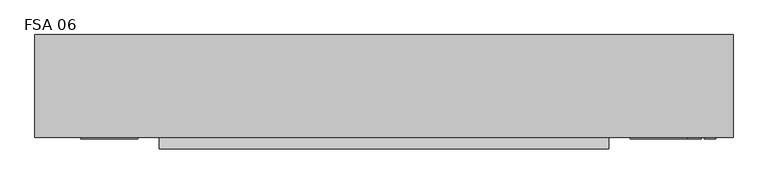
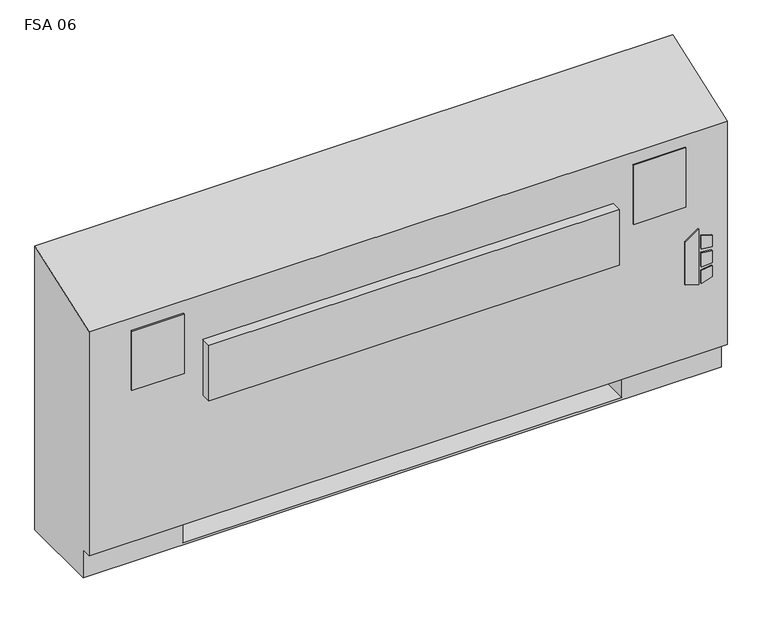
"""IFC4 building model written with IfcOpenShell, lengths in millimetres: proxy geometry, Vertical_Fan_Coil_Unit_-_FSA_-_IEC_-_2-Pipe_FS-FR_RH_2022 : FSA 06."""

from ifc_helpers import new_model, si_unit, point, frame, frame_2d, origin, place, context, project, spatial, polyline, circle_curve, trimmed, segment, composite_curve, outline, extrude, source, transform, mapped, element, save
from ifc_brep_helpers import plane_surface, revolved_surface, advanced_brep


def fsa_06_d963093d(model_context):
    return source(origin(), model_context, "Body", "SolidModel", [
        extrude(outline(polyline([(263.9480703, 823.9868862), (254.0, 856.1602728), (396.1709244, 856.1602728), (373.1489183, 823.9868862), (263.9480703, 823.9868862)])), frame((0.0, 12.7, 0.0), z_axis=(0.0, 1.0, 0.0), x_axis=(0.0, 0.0, 1.0)), (0.0, 0.0, 1.0), 3.175),
        extrude(outline(polyline([(342.9473557, 862.9186058), (339.7449632, 889.0), (368.9738042, 889.0), (377.0382193, 862.9186058), (342.9473557, 862.9186058)])), frame((0.0, 12.7, 0.0), z_axis=(0.0, 1.0, 0.0), x_axis=(0.0, 0.0, 1.0)), (0.0, 0.0, 1.0), 3.175),
        extrude(outline(polyline([(291.0838288, 889.0), (287.4183279, 862.9186058), (254.0, 862.9186058), (262.6342372, 889.0), (291.0838288, 889.0)])), frame((0.0, 12.7, 0.0), z_axis=(0.0, 1.0, 0.0), x_axis=(0.0, 0.0, 1.0)), (0.0, 0.0, 1.0), 3.175),
        extrude(outline(polyline([(330.3989903, 889.0), (332.6808166, 862.9186058), (296.7432681, 862.9186058), (299.4845331, 889.0), (330.3989903, 889.0)])), frame((0.0, 12.7, 0.0), z_axis=(0.0, 1.0, 0.0), x_axis=(0.0, 0.0, 1.0)), (0.0, 0.0, 1.0), 3.175),
        extrude(outline(polyline([(-501.65, 81.534), (-501.65, 223.266), (-381.0, 223.266), (-381.0, 81.534), (-501.65, 81.534)])), frame((0.0, 0.0, 327.025), z_axis=(0.0, 0.0, 1.0), x_axis=(1.0, 0.0, 0.0)), (0.0, 0.0, 1.0), 260.35),
        extrude(outline(polyline([(-393.7, 12.7), (-520.7, 12.7), (-520.7, 15.875), (-393.7, 15.875), (-393.7, 12.7)])), frame((0.0, 0.0, 463.55), z_axis=(0.0, 0.0, 1.0), x_axis=(1.0, 0.0, 0.0)), (0.0, 0.0, 1.0), 152.4),
        extrude(outline(polyline([(825.5, 12.7), (698.5, 12.7), (698.5, 15.875), (825.5, 15.875), (825.5, 12.7)])), frame((0.0, 0.0, 463.55), z_axis=(0.0, 0.0, 1.0), x_axis=(1.0, 0.0, 0.0)), (0.0, 0.0, 1.0), 152.4),
        extrude(outline(composite_curve([segment(trimmed(circle_curve(frame_2d((749.3, 130.175)), 9.525), [point((739.775, 130.175))], [point((758.825, 130.175))], False, "CARTESIAN"), True, "CONTINUOUS"), segment(trimmed(circle_curve(frame_2d((749.3, 130.175)), 9.525), [point((758.825, 130.175))], [point((739.775, 130.175))], False, "CARTESIAN"), True, "CONTINUOUS")], self_intersect=False)), frame((0.0, 0.0, 101.6), z_axis=(0.0, 0.0, 1.0), x_axis=(1.0, 0.0, 0.0)), (0.0, 0.0, 1.0), 25.4),
        extrude(outline(polyline([(850.9, 196.85), (850.9, 63.5), (685.8, 63.5), (685.8, 196.85), (850.9, 196.85)])), frame((0.0, 0.0, 127.0), z_axis=(0.0, 0.0, 1.0), x_axis=(1.0, 0.0, 0.0)), (0.0, 0.0, 1.0), 50.8),
        extrude(outline(polyline([(650.875, -9.525), (-346.075, -9.525), (-346.075, 15.875), (650.875, 15.875), (650.875, -9.525)])), frame((0.0, 0.0, 389.3009245), z_axis=(0.0, 0.0, 1.0), x_axis=(1.0, 0.0, 0.0)), (0.0, 0.0, 1.0), 142.875),
        extrude(outline(composite_curve([segment(trimmed(circle_curve(frame_2d((109.347, 456.819)), 7.9375), [point((109.347, 464.7565))], [point((109.347, 448.8815))], False, "CARTESIAN"), True, "CONTINUOUS"), segment(trimmed(circle_curve(frame_2d((109.347, 456.819)), 7.9375), [point((109.347, 448.8815))], [point((109.347, 464.7565))], False, "CARTESIAN"), True, "CONTINUOUS")], self_intersect=False)), frame((685.8, 0.0, 0.0), z_axis=(1.0, 0.0, 0.0), x_axis=(0.0, 1.0, 0.0)), (0.0, 0.0, 1.0), 50.8),
        extrude(outline(composite_curve([segment(trimmed(circle_curve(frame_2d((157.4546, 429.4632)), 7.9375), [point((157.4546, 437.4007))], [point((157.4546, 421.5257))], False, "CARTESIAN"), True, "CONTINUOUS"), segment(trimmed(circle_curve(frame_2d((157.4546, 429.4632)), 7.9375), [point((157.4546, 421.5257))], [point((157.4546, 437.4007))], False, "CARTESIAN"), True, "CONTINUOUS")], self_intersect=False)), frame((685.8, 0.0, 0.0), z_axis=(1.0, 0.0, 0.0), x_axis=(0.0, 1.0, 0.0)), (0.0, 0.0, 1.0), 50.8),
        advanced_brep(
        [(-622.3, 244.475, 0.0), (927.1, 244.475, 0.0), (927.1, 41.275, 0.0), (-622.3, 41.275, 0.0), (-622.3, 244.475, 730.25), (927.1, 244.475, 730.25), (685.8, 244.475, 73.025), (914.4, 244.475, 73.025), (914.4, 244.475, 654.05), (685.8, 244.475, 654.05), (685.8, 244.475, 414.8650565), (714.375, 244.475, 414.8650565), (714.375, 244.475, 385.2349435), (685.8, 244.475, 385.2349435), (685.8, 244.475, 287.3375), (714.375, 244.475, 287.3375), (714.375, 244.475, 258.7625), (685.8, 244.475, 258.7625), (685.8, 244.475, 141.2875), (714.375, 244.475, 141.2875), (714.375, 244.475, 112.7125), (685.8, 244.475, 112.7125), (-381.0, 244.475, 654.05), (-609.6, 244.475, 654.05), (-609.6, 244.475, 73.025), (-381.0, 244.475, 73.025), (-381.0, 244.475, 112.7125), (-409.575, 244.475, 112.7125), (-409.575, 244.475, 141.2875), (-381.0, 244.475, 141.2875), (-381.0, 244.475, 258.7625), (-409.575, 244.475, 258.7625), (-409.575, 244.475, 287.3375), (-381.0, 244.475, 287.3375), (-381.0, 244.475, 385.2349435), (-409.575, 244.475, 385.2349435), (-409.575, 244.475, 414.8650565), (-381.0, 244.475, 414.8650565), (704.0626, 244.475, 127.0), (692.9374, 244.475, 127.0), (704.0626, 244.475, 400.05), (692.9374, 244.475, 400.05), (704.0626, 244.475, 273.05), (692.9374, 244.475, 273.05), (-388.1374, 244.475, 127.0), (-399.2626, 244.475, 127.0), (-388.1374, 244.475, 273.05), (-399.2626, 244.475, 273.05), (-388.1374, 244.475, 400.05), (-399.2626, 244.475, 400.05), (-622.3, 41.275, 73.025), (-622.3, 15.875, 73.025), (-622.3, 15.875, 647.7), (927.1, 15.875, 73.025), (927.1, 15.875, 647.7), (927.1, 41.275, 73.025), (-381.0, 41.275, 73.025), (-381.0, 225.425, 73.025), (685.8, 225.425, 73.025), (685.8, 41.275, 73.025), (685.8, 41.275, 6.35), (-381.0, 41.275, 6.35), (685.8, 41.275, 654.05), (914.4, 41.275, 654.05), (914.4, 41.275, 73.025), (685.8, 41.275, 73.025), (-381.0, 41.275, 654.05), (-381.0, 41.275, 73.025), (-609.6, 41.275, 73.025), (-609.6, 41.275, 654.05), (685.8, 225.425, 73.025), (685.8, 238.125, 112.7125), (685.8, 238.125, 141.2875), (685.8, 238.125, 258.7625), (685.8, 238.125, 287.3375), (685.8, 238.125, 385.2349435), (685.8, 238.125, 414.8650565), (-381.0, 225.425, 73.025), (-381.0, 238.125, 414.8650565), (-381.0, 238.125, 385.2349435), (-381.0, 238.125, 287.3375), (-381.0, 238.125, 258.7625), (-381.0, 238.125, 141.2875), (-381.0, 238.125, 112.7125), (-381.0, 225.425, 6.35), (685.8, 225.425, 6.35), (714.375, 238.125, 112.7125), (714.375, 238.125, 141.2875), (692.9374, 238.125, 127.0), (704.0626, 238.125, 127.0), (714.375, 238.125, 258.7625), (714.375, 238.125, 287.3375), (692.9374, 238.125, 273.05), (704.0626, 238.125, 273.05), (714.375, 238.125, 385.2349435), (714.375, 238.125, 414.8650565), (692.9374, 238.125, 400.05), (704.0626, 238.125, 400.05), (-409.575, 238.125, 141.2875), (-409.575, 238.125, 112.7125), (-399.2626, 238.125, 127.0), (-388.1374, 238.125, 127.0), (-409.575, 238.125, 287.3375), (-409.575, 238.125, 258.7625), (-399.2626, 238.125, 273.05), (-388.1374, 238.125, 273.05), (-409.575, 238.125, 414.8650565), (-409.575, 238.125, 385.2349435), (-399.2626, 238.125, 400.05), (-388.1374, 238.125, 400.05)],
        [
            (0, 1),
            (1, 2),
            (2, 3),
            (3, 0),
            (0, 4),
            (4, 5),
            (5, 1),
            (6, 7),
            (7, 8),
            (8, 9),
            (9, 10),
            (10, 11),
            (11, 12),
            (12, 13),
            (13, 14),
            (14, 15),
            (15, 16),
            (16, 17),
            (17, 18),
            (18, 19),
            (19, 20),
            (20, 21),
            (21, 6),
            (22, 23),
            (23, 24),
            (24, 25),
            (25, 26),
            (26, 27),
            (27, 28),
            (28, 29),
            (29, 30),
            (30, 31),
            (31, 32),
            (32, 33),
            (33, 34),
            (34, 35),
            (35, 36),
            (36, 37),
            (37, 22),
            (38, 39, circle_curve(frame((698.5, 244.475, 127.0), z_axis=(0.0, -1.0, 0.0), x_axis=(-1.0, 0.0, 0.0)), 5.5626)),
            (39, 38, circle_curve(frame((698.5, 244.475, 127.0), z_axis=(0.0, -1.0, 0.0), x_axis=(-1.0, 0.0, 0.0)), 5.5626)),
            (40, 41, circle_curve(frame((698.5, 244.475, 400.05), z_axis=(0.0, -1.0, 0.0), x_axis=(-1.0, 0.0, 0.0)), 5.5626)),
            (41, 40, circle_curve(frame((698.5, 244.475, 400.05), z_axis=(0.0, -1.0, 0.0), x_axis=(-1.0, 0.0, 0.0)), 5.5626)),
            (42, 43, circle_curve(frame((698.5, 244.475, 273.05), z_axis=(0.0, -1.0, 0.0), x_axis=(-1.0, 0.0, 0.0)), 5.5626)),
            (43, 42, circle_curve(frame((698.5, 244.475, 273.05), z_axis=(0.0, -1.0, 0.0), x_axis=(-1.0, 0.0, 0.0)), 5.5626)),
            (44, 45, circle_curve(frame((-393.7, 244.475, 127.0), z_axis=(0.0, -1.0, 0.0), x_axis=(-1.0, 0.0, 0.0)), 5.5626)),
            (45, 44, circle_curve(frame((-393.7, 244.475, 127.0), z_axis=(0.0, -1.0, 0.0), x_axis=(-1.0, 0.0, 0.0)), 5.5626)),
            (46, 47, circle_curve(frame((-393.7, 244.475, 273.05), z_axis=(0.0, -1.0, 0.0), x_axis=(-1.0, 0.0, 0.0)), 5.5626)),
            (47, 46, circle_curve(frame((-393.7, 244.475, 273.05), z_axis=(0.0, -1.0, 0.0), x_axis=(-1.0, 0.0, 0.0)), 5.5626)),
            (48, 49, circle_curve(frame((-393.7, 244.475, 400.05), z_axis=(0.0, -1.0, 0.0), x_axis=(-1.0, 0.0, 0.0)), 5.5626)),
            (49, 48, circle_curve(frame((-393.7, 244.475, 400.05), z_axis=(0.0, -1.0, 0.0), x_axis=(-1.0, 0.0, 0.0)), 5.5626)),
            (3, 50),
            (50, 51),
            (51, 52),
            (52, 4),
            (51, 53),
            (53, 54),
            (54, 52),
            (5, 54),
            (53, 55),
            (55, 2),
            (50, 56),
            (56, 57),
            (57, 58),
            (58, 59),
            (59, 55),
            (59, 60),
            (60, 61),
            (61, 56),
            (62, 63),
            (63, 64),
            (64, 65),
            (65, 62),
            (66, 67),
            (67, 68),
            (68, 69),
            (69, 66),
            (65, 70),
            (70, 6),
            (21, 71),
            (71, 72),
            (72, 18),
            (17, 73),
            (73, 74),
            (74, 14),
            (13, 75),
            (75, 76),
            (76, 10),
            (9, 62),
            (64, 7),
            (63, 8),
            (69, 23),
            (22, 66),
            (68, 24),
            (67, 77),
            (77, 25),
            (37, 78),
            (78, 79),
            (79, 34),
            (33, 80),
            (80, 81),
            (81, 30),
            (29, 82),
            (82, 83),
            (83, 26),
            (57, 84),
            (84, 85),
            (85, 58),
            (85, 60),
            (84, 61),
            (71, 86),
            (86, 87),
            (87, 72),
            (88, 89, circle_curve(frame((698.5, 238.125, 127.0), z_axis=(0.0, 1.0, 0.0), x_axis=(-1.0, 0.0, 0.0)), 5.5626)),
            (89, 88, circle_curve(frame((698.5, 238.125, 127.0), z_axis=(0.0, 1.0, 0.0), x_axis=(-1.0, 0.0, 0.0)), 5.5626)),
            (73, 90),
            (90, 91),
            (91, 74),
            (92, 93, circle_curve(frame((698.5, 238.125, 273.05), z_axis=(0.0, 1.0, 0.0), x_axis=(-1.0, 0.0, 0.0)), 5.5626)),
            (93, 92, circle_curve(frame((698.5, 238.125, 273.05), z_axis=(0.0, 1.0, 0.0), x_axis=(-1.0, 0.0, 0.0)), 5.5626)),
            (75, 94),
            (94, 95),
            (95, 76),
            (96, 97, circle_curve(frame((698.5, 238.125, 400.05), z_axis=(0.0, 1.0, 0.0), x_axis=(-1.0, 0.0, 0.0)), 5.5626)),
            (97, 96, circle_curve(frame((698.5, 238.125, 400.05), z_axis=(0.0, 1.0, 0.0), x_axis=(-1.0, 0.0, 0.0)), 5.5626)),
            (98, 99),
            (99, 83),
            (82, 98),
            (100, 101, circle_curve(frame((-393.7, 238.125, 127.0), z_axis=(0.0, 1.0, 0.0), x_axis=(-1.0, 0.0, 0.0)), 5.5626)),
            (101, 100, circle_curve(frame((-393.7, 238.125, 127.0), z_axis=(0.0, 1.0, 0.0), x_axis=(-1.0, 0.0, 0.0)), 5.5626)),
            (102, 103),
            (103, 81),
            (80, 102),
            (104, 105, circle_curve(frame((-393.7, 238.125, 273.05), z_axis=(0.0, 1.0, 0.0), x_axis=(-1.0, 0.0, 0.0)), 5.5626)),
            (105, 104, circle_curve(frame((-393.7, 238.125, 273.05), z_axis=(0.0, 1.0, 0.0), x_axis=(-1.0, 0.0, 0.0)), 5.5626)),
            (106, 107),
            (107, 79),
            (78, 106),
            (108, 109, circle_curve(frame((-393.7, 238.125, 400.05), z_axis=(0.0, 1.0, 0.0), x_axis=(-1.0, 0.0, 0.0)), 5.5626)),
            (109, 108, circle_curve(frame((-393.7, 238.125, 400.05), z_axis=(0.0, 1.0, 0.0), x_axis=(-1.0, 0.0, 0.0)), 5.5626)),
            (87, 19),
            (86, 20),
            (91, 15),
            (90, 16),
            (95, 11),
            (94, 12),
            (28, 98),
            (99, 27),
            (32, 102),
            (103, 31),
            (36, 106),
            (107, 35),
            (88, 39),
            (38, 89),
            (96, 41),
            (40, 97),
            (92, 43),
            (42, 93),
            (100, 45),
            (44, 101),
            (104, 47),
            (46, 105),
            (108, 49),
            (48, 109),
        ],
        [
            plane_surface(frame((-622.3, 244.475, 0.0), z_axis=(0.0, 0.0, -1.0), x_axis=(1.0, 0.0, 0.0))),
            plane_surface(frame((927.1, 244.475, 730.25), z_axis=(0.0, 1.0, 0.0), x_axis=(0.0, 0.0, -1.0))),
            plane_surface(frame((-622.3, 244.475, 730.25), z_axis=(-1.0, 0.0, 0.0), x_axis=(0.0, 0.0, -1.0))),
            plane_surface(frame((-622.3, 15.875, 730.25), z_axis=(0.0, -1.0, 0.0), x_axis=(0.0, 0.0, -1.0))),
            plane_surface(frame((927.1, 15.875, 730.25), z_axis=(1.0, 0.0, 0.0), x_axis=(0.0, 0.0, -1.0))),
            plane_surface(frame((-622.3, 15.875, 73.025), z_axis=(0.0, 0.0, -1.0), x_axis=(1.0, 0.0, 0.0))),
            plane_surface(frame((-622.3, 41.275, 73.025), z_axis=(0.0, -1.0, 0.0), x_axis=(1.0, 0.0, 0.0))),
            plane_surface(frame((685.8, 41.275, 654.05), z_axis=(0.0, 1.0, 0.0), x_axis=(0.0, 0.0, -1.0))),
            plane_surface(frame((685.8, 41.275, 654.05), z_axis=(1.0, 0.0, 0.0), x_axis=(0.0, 1.0, 0.0))),
            plane_surface(frame((685.8, 41.275, 73.025), z_axis=(0.0, 0.0, 1.0), x_axis=(0.0, 1.0, 0.0))),
            plane_surface(frame((914.4, 41.275, 73.025), z_axis=(-1.0, 0.0, 0.0), x_axis=(0.0, 1.0, 0.0))),
            plane_surface(frame((914.4, 41.275, 654.05), z_axis=(0.0, 0.0, -1.0), x_axis=(0.0, 1.0, 0.0))),
            plane_surface(frame((-381.0, 41.275, 654.05), z_axis=(0.0, 0.0, -1.0), x_axis=(0.0, 1.0, 0.0))),
            plane_surface(frame((-609.6, 41.275, 654.05), z_axis=(1.0, 0.0, 0.0), x_axis=(0.0, 1.0, 0.0))),
            plane_surface(frame((-609.6, 41.275, 73.025), z_axis=(0.0, 0.0, 1.0), x_axis=(0.0, 1.0, 0.0))),
            plane_surface(frame((-381.0, 41.275, 73.025), z_axis=(-1.0, 0.0, 0.0), x_axis=(0.0, 1.0, 0.0))),
            plane_surface(frame((685.8, 225.425, 73.025), z_axis=(0.0, -1.0, 0.0), x_axis=(0.0, 0.0, -1.0))),
            plane_surface(frame((685.8, 225.425, 73.025), z_axis=(-1.0, 0.0, 0.0), x_axis=(0.0, -1.0, 0.0))),
            plane_surface(frame((685.8, 225.425, 6.35), z_axis=(0.0, 0.0, 1.0), x_axis=(0.0, -1.0, 0.0))),
            plane_surface(frame((-381.0, 225.425, 6.35), z_axis=(1.0, 0.0, 0.0), x_axis=(0.0, -1.0, 0.0))),
            plane_surface(frame((714.375, 238.125, 141.2875), z_axis=(0.0, -1.0, 0.0), x_axis=(-1.0, 0.0, 0.0))),
            plane_surface(frame((685.8, 244.475, 141.2875), z_axis=(0.0, 0.0, 1.0), x_axis=(0.0, -1.0, 0.0))),
            plane_surface(frame((714.375, 244.475, 141.2875), z_axis=(1.0, 0.0, 0.0), x_axis=(0.0, -1.0, 0.0))),
            plane_surface(frame((714.375, 244.475, 112.7125), z_axis=(0.0, 0.0, -1.0), x_axis=(0.0, -1.0, 0.0))),
            plane_surface(frame((685.8, 244.475, 287.3375), z_axis=(0.0, 0.0, 1.0), x_axis=(0.0, -1.0, 0.0))),
            plane_surface(frame((714.375, 244.475, 287.3375), z_axis=(1.0, 0.0, 0.0), x_axis=(0.0, -1.0, 0.0))),
            plane_surface(frame((714.375, 244.475, 258.7625), z_axis=(0.0, 0.0, -1.0), x_axis=(0.0, -1.0, 0.0))),
            plane_surface(frame((685.8, 244.475, 414.8650565), z_axis=(0.0, 0.0, 1.0), x_axis=(0.0, -1.0, 0.0))),
            plane_surface(frame((714.375, 244.475, 414.8650565), z_axis=(1.0, 0.0, 0.0), x_axis=(0.0, -1.0, 0.0))),
            plane_surface(frame((714.375, 244.475, 385.2349435), z_axis=(0.0, 0.0, -1.0), x_axis=(0.0, -1.0, 0.0))),
            plane_surface(frame((-409.575, 244.475, 141.2875), z_axis=(0.0, 0.0, 1.0), x_axis=(0.0, -1.0, 0.0))),
            plane_surface(frame((-381.0, 244.475, 112.7125), z_axis=(0.0, 0.0, -1.0), x_axis=(0.0, -1.0, 0.0))),
            plane_surface(frame((-409.575, 244.475, 112.7125), z_axis=(-1.0, 0.0, 0.0), x_axis=(0.0, -1.0, 0.0))),
            plane_surface(frame((-409.575, 244.475, 287.3375), z_axis=(0.0, 0.0, 1.0), x_axis=(0.0, -1.0, 0.0))),
            plane_surface(frame((-381.0, 244.475, 258.7625), z_axis=(0.0, 0.0, -1.0), x_axis=(0.0, -1.0, 0.0))),
            plane_surface(frame((-409.575, 244.475, 258.7625), z_axis=(-1.0, 0.0, 0.0), x_axis=(0.0, -1.0, 0.0))),
            plane_surface(frame((-409.575, 244.475, 414.8650565), z_axis=(0.0, 0.0, 1.0), x_axis=(0.0, -1.0, 0.0))),
            plane_surface(frame((-381.0, 244.475, 385.2349435), z_axis=(0.0, 0.0, -1.0), x_axis=(0.0, -1.0, 0.0))),
            plane_surface(frame((-409.575, 244.475, 385.2349435), z_axis=(-1.0, 0.0, 0.0), x_axis=(0.0, -1.0, 0.0))),
            revolved_surface(polyline([(692.9374, 238.125, 127.0), (692.9374, 244.475, 127.0)]), (698.5, 244.475, 127.0), (0.0, -1.0, 0.0)),
            revolved_surface(polyline([(692.9374, 238.125, 400.05), (692.9374, 244.475, 400.05)]), (698.5, 244.475, 400.05), (0.0, -1.0, 0.0)),
            revolved_surface(polyline([(692.9374, 238.125, 273.05), (692.9374, 244.475, 273.05)]), (698.5, 244.475, 273.05), (0.0, -1.0, 0.0)),
            revolved_surface(polyline([(-399.26259999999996, 238.125, 127.0), (-399.26259999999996, 244.475, 127.0)]), (-393.7, 244.475, 127.0), (0.0, -1.0, 0.0)),
            revolved_surface(polyline([(-399.26259999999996, 238.125, 273.05), (-399.26259999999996, 244.475, 273.05)]), (-393.7, 244.475, 273.05), (0.0, -1.0, 0.0)),
            revolved_surface(polyline([(-399.26259999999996, 238.125, 400.05), (-399.26259999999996, 244.475, 400.05)]), (-393.7, 244.475, 400.05), (0.0, -1.0, 0.0)),
            plane_surface(frame((-622.3, 244.475, 730.25), z_axis=(0.0, -0.33964446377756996, 0.9405538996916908), x_axis=(1.0, 0.0, 0.0))),
        ],
        [
            (0, [[1, 2, 3, 4]]),
            (1, [[-1, 5, 6, 7], [8, 9, 10, 11, 12, 13, 14, 15, 16, 17, 18, 19, 20, 21, 22, 23], [24, 25, 26, 27, 28, 29, 30, 31, 32, 33, 34, 35, 36, 37, 38, 39], [40, 41], [42, 43], [44, 45], [46, 47], [48, 49], [50, 51]]),
            (2, [[-5, -4, 52, 53, 54, 55]]),
            (3, [[56, 57, 58, -54]]),
            (4, [[-7, 59, -57, 60, 61, -2]]),
            (5, [[-53, 62, 63, 64, 65, 66, -60, -56]]),
            (6, [[-3, -61, -66, 67, 68, 69, -62, -52]]),
            (7, [[70, 71, 72, 73]]),
            (7, [[74, 75, 76, 77]]),
            (8, [[-73, 78, 79, -23, 80, 81, 82, -19, 83, 84, 85, -15, 86, 87, 88, -11, 89]]),
            (9, [[-72, 90, -8, -79, -78]]),
            (10, [[-71, 91, -9, -90]]),
            (11, [[-70, -89, -10, -91]]),
            (12, [[-77, 92, -24, 93]]),
            (13, [[-76, 94, -25, -92]]),
            (14, [[-75, 95, 96, -26, -94]]),
            (15, [[-74, -93, -39, 97, 98, 99, -35, 100, 101, 102, -31, 103, 104, 105, -27, -96, -95]]),
            (16, [[-64, 106, 107, 108]]),
            (17, [[-108, 109, -67, -65]]),
            (18, [[-107, 110, -68, -109]]),
            (19, [[-106, -63, -69, -110]]),
            (20, [[111, 112, 113, -81], [114, 115]]),
            (20, [[116, 117, 118, -84], [119, 120]]),
            (20, [[121, 122, 123, -87], [124, 125]]),
            (20, [[126, 127, -104, 128], [129, 130]]),
            (20, [[131, 132, -101, 133], [134, 135]]),
            (20, [[136, 137, -98, 138], [139, 140]]),
            (21, [[-113, 141, -20, -82]]),
            (22, [[-112, 142, -21, -141]]),
            (23, [[-111, -80, -22, -142]]),
            (24, [[-118, 143, -16, -85]]),
            (25, [[-117, 144, -17, -143]]),
            (26, [[-116, -83, -18, -144]]),
            (27, [[-123, 145, -12, -88]]),
            (28, [[-122, 146, -13, -145]]),
            (29, [[-121, -86, -14, -146]]),
            (30, [[-128, -103, -30, 147]]),
            (31, [[-127, 148, -28, -105]]),
            (32, [[-126, -147, -29, -148]]),
            (33, [[-133, -100, -34, 149]]),
            (34, [[-132, 150, -32, -102]]),
            (35, [[-131, -149, -33, -150]]),
            (36, [[-138, -97, -38, 151]]),
            (37, [[-137, 152, -36, -99]]),
            (38, [[-136, -151, -37, -152]]),
            (39, [[153, -40, 154, -114]]),
            (39, [[-153, -115, -154, -41]]),
            (40, [[155, -42, 156, -124]]),
            (40, [[-155, -125, -156, -43]]),
            (41, [[157, -44, 158, -119]]),
            (41, [[-157, -120, -158, -45]]),
            (42, [[159, -46, 160, -129]]),
            (42, [[-159, -130, -160, -47]]),
            (43, [[161, -48, 162, -134]]),
            (43, [[-161, -135, -162, -49]]),
            (44, [[163, -50, 164, -139]]),
            (44, [[-163, -140, -164, -51]]),
            (45, [[-6, -55, -58, -59]]),
        ],
    ),
    ])


if __name__ == "__main__":
    model = new_model("IFC4")
    model_context = context("Model", 3, world=origin())
    ifc_project = project(units=[si_unit("LENGTHUNIT", "METRE", prefix="MILLI")], contexts=[model_context])
    site = spatial("IfcSite", under=ifc_project)
    building = spatial("IfcBuilding", under=site)
    placement = place(None, origin())
    fsa_06_shape = fsa_06_d963093d(model_context)
    element("IfcBuildingElementProxy", 1, Name="Vertical_Fan_Coil_Unit_-_FSA_-_IEC_-_2-Pipe_FS-FR_RH_2022 : FSA 06", ObjectType="Vertical_Fan_Coil_Unit_-_FSA_-_IEC_-_2-Pipe_FS-FR_RH_2022 : FSA 06", at=placement, inside=building, context=model_context, shape_type="MappedRepresentation", body=[
        mapped(fsa_06_shape, transform((0.0, 0.0, 0.0), x_axis=(1.0, 0.0, 0.0), y_axis=(0.0, 1.0, 0.0), z_axis=(0.0, 0.0, 1.0))),
    ])
    save(model, "model.ifc")
